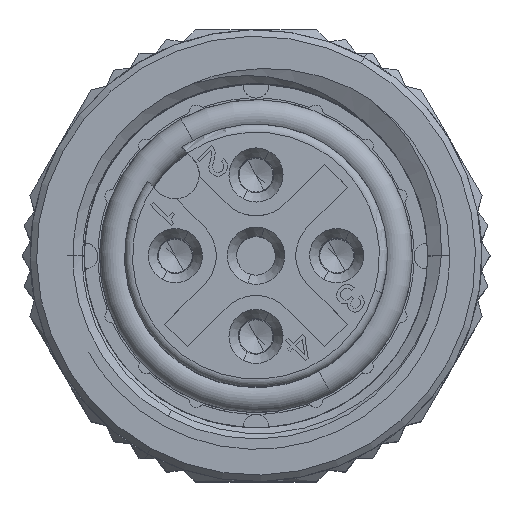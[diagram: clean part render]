
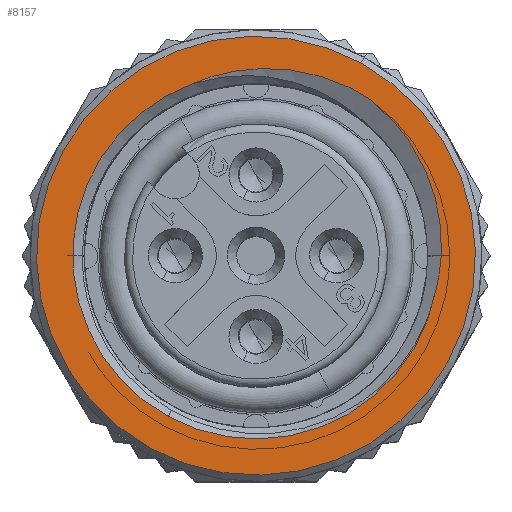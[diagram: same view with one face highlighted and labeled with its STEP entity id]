
A CAD part, top view. The second image highlights one B-rep face of the part: STEP entity #8157.
In plain terms, the highlighted planar face has unit normal (0, 0, 1).
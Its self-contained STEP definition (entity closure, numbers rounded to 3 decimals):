
#734 = CARTESIAN_POINT ( 'NONE',  ( 1.229, 5.733, 41.1 ) ) ;
#825 = CARTESIAN_POINT ( 'NONE',  ( 4.265, 4.185, 41.1 ) ) ;
#873 = DIRECTION ( 'NONE',  ( 1., 0., 0. ) ) ;
#990 = CARTESIAN_POINT ( 'NONE',  ( 4.755, 3.535, 41.1 ) ) ;
#1367 = CARTESIAN_POINT ( 'NONE',  ( 0., 0., 41.1 ) ) ;
#1842 = ORIENTED_EDGE ( 'NONE', *, *, #15718, .F. ) ;
#3182 = CARTESIAN_POINT ( 'NONE',  ( 3.933, 4.534, 41.1 ) ) ;
#3256 = CARTESIAN_POINT ( 'NONE',  ( 2.95, 5.205, 41.1 ) ) ;
#3341 = CARTESIAN_POINT ( 'NONE',  ( 4.783, 3.492, 41.1 ) ) ;
#3395 = DIRECTION ( 'NONE',  ( 0., 0., -1. ) ) ;
#4111 = ORIENTED_EDGE ( 'NONE', *, *, #29160, .F. ) ;
#4158 = CIRCLE ( 'NONE', #8966, 6.8 ) ;
#4229 = AXIS2_PLACEMENT_3D ( 'NONE', #10672, #28437, #31123 ) ;
#4765 = VERTEX_POINT ( 'NONE', #26833 ) ;
#5332 = CARTESIAN_POINT ( 'NONE',  ( 0., 0., 41.1 ) ) ;
#5579 = CARTESIAN_POINT ( 'NONE',  ( 5.74, -0.004, 41.1 ) ) ;
#5701 = CARTESIAN_POINT ( 'NONE',  ( 4.883, 3.337, 41.1 ) ) ;
#5778 = CARTESIAN_POINT ( 'NONE',  ( 3.527, 4.854, 41.1 ) ) ;
#6457 = B_SPLINE_CURVE_WITH_KNOTS ( 'NONE', 3,
 ( #31185, #18927, #10896, #13416, #28658, #21105, #28502, #5701, #15941, #8223, #3341, #16110, #990, #16273, #18274, #825, #3182, #31351 ),
 .UNSPECIFIED., .F., .F.,
 ( 4, 2, 2, 2, 1, 2, 2, 1, 2, 4 ),
 ( 0., 0.25, 0.5, 0.625, 0.656, 0.664, 0.672, 0.687, 0.75, 1. ),
 .UNSPECIFIED. ) ;
#7102 = DIRECTION ( 'NONE',  ( 0., 0., -1. ) ) ;
#7262 = B_SPLINE_CURVE_WITH_KNOTS ( 'NONE', 3,
 ( #5778, #31261, #3256, #13321, #23530, #21520, #13489, #734, #21185, #31425, #16189, #11136, #18672, #21355, #31748, #8627, #18837, #8789, #29067 ),
 .UNSPECIFIED., .F., .F.,
 ( 4, 2, 2, 2, 2, 1, 2, 2, 2, 4 ),
 ( 0., 0.25, 0.375, 0.437, 0.469, 0.484, 0.492, 0.5, 0.75, 1. ),
 .UNSPECIFIED. ) ;
#7330 = DIRECTION ( 'NONE',  ( 1., 0., 0. ) ) ;
#8157 = ADVANCED_FACE ( 'NONE', ( #17174, #14676 ), #17825, .F. ) ;
#8223 = CARTESIAN_POINT ( 'NONE',  ( 4.8, 3.466, 41.1 ) ) ;
#8627 = CARTESIAN_POINT ( 'NONE',  ( -0.347, 5.781, 41.1 ) ) ;
#8789 = CARTESIAN_POINT ( 'NONE',  ( -1.658, 5.46, 41.1 ) ) ;
#8920 = DIRECTION ( 'NONE',  ( 0., 0., -1. ) ) ;
#8966 = AXIS2_PLACEMENT_3D ( 'NONE', #1367, #8920, #19134 ) ;
#9347 = AXIS2_PLACEMENT_3D ( 'NONE', #26353, #3395, #873 ) ;
#9494 = CARTESIAN_POINT ( 'NONE',  ( -2.722, -4.983, 41.1 ) ) ;
#9632 = CARTESIAN_POINT ( 'NONE',  ( -1.961, 5.329, 41.1 ) ) ;
#9722 = AXIS2_PLACEMENT_3D ( 'NONE', #5332, #10515, #7330 ) ;
#10515 = DIRECTION ( 'NONE',  ( 0., 0., -1. ) ) ;
#10672 = CARTESIAN_POINT ( 'NONE',  ( 0., 0., 41.1 ) ) ;
#10812 = EDGE_CURVE ( 'NONE', #22697, #24032, #14017, .T. ) ;
#10896 = CARTESIAN_POINT ( 'NONE',  ( 5.74, 0.87, 41.1 ) ) ;
#11136 = CARTESIAN_POINT ( 'NONE',  ( 0.908, 5.773, 41.1 ) ) ;
#11309 = EDGE_CURVE ( 'NONE', #4765, #24032, #7262, .T. ) ;
#11796 = EDGE_LOOP ( 'NONE', ( #25904, #22773, #18919, #1842, #24290 ) ) ;
#12698 = CARTESIAN_POINT ( 'NONE',  ( 5.579, -1.056, 41.1 ) ) ;
#13012 = CARTESIAN_POINT ( 'NONE',  ( 5.665, -0.714, 41.1 ) ) ;
#13048 = B_SPLINE_CURVE_WITH_KNOTS ( 'NONE', 3,
 ( #18530, #13012, #13340, #23371 ),
 .UNSPECIFIED., .F., .F.,
 ( 4, 4 ),
 ( 0., 1. ),
 .UNSPECIFIED. ) ;
#13321 = CARTESIAN_POINT ( 'NONE',  ( 2.279, 5.473, 41.1 ) ) ;
#13340 = CARTESIAN_POINT ( 'NONE',  ( 5.719, -0.361, 41.1 ) ) ;
#13416 = CARTESIAN_POINT ( 'NONE',  ( 5.58, 1.762, 41.1 ) ) ;
#13489 = CARTESIAN_POINT ( 'NONE',  ( 1.46, 5.694, 41.1 ) ) ;
#14017 = CIRCLE ( 'NONE', #9722, 5.679 ) ;
#14676 = FACE_BOUND ( 'NONE', #11796, .T. ) ;
#15718 = EDGE_CURVE ( 'NONE', #26902, #4765, #6457, .T. ) ;
#15941 = CARTESIAN_POINT ( 'NONE',  ( 4.842, 3.402, 41.1 ) ) ;
#16005 = CIRCLE ( 'NONE', #4229, 5.679 ) ;
#16016 = VERTEX_POINT ( 'NONE', #12698 ) ;
#16110 = CARTESIAN_POINT ( 'NONE',  ( 4.776, 3.503, 41.1 ) ) ;
#16189 = CARTESIAN_POINT ( 'NONE',  ( 0.97, 5.767, 41.1 ) ) ;
#16273 = CARTESIAN_POINT ( 'NONE',  ( 4.681, 3.643, 41.1 ) ) ;
#17174 = FACE_OUTER_BOUND ( 'NONE', #25622, .T. ) ;
#17825 = PLANE ( 'NONE',  #19225 ) ;
#18274 = CARTESIAN_POINT ( 'NONE',  ( 4.602, 3.751, 41.1 ) ) ;
#18530 = CARTESIAN_POINT ( 'NONE',  ( 5.579, -1.056, 41.1 ) ) ;
#18672 = CARTESIAN_POINT ( 'NONE',  ( 0.867, 5.777, 41.1 ) ) ;
#18706 = ORIENTED_EDGE ( 'NONE', *, *, #23294, .F. ) ;
#18837 = CARTESIAN_POINT ( 'NONE',  ( -1.277, 5.594, 41.1 ) ) ;
#18919 = ORIENTED_EDGE ( 'NONE', *, *, #11309, .F. ) ;
#18927 = CARTESIAN_POINT ( 'NONE',  ( 5.764, 0.426, 41.1 ) ) ;
#19134 = DIRECTION ( 'NONE',  ( 1., 0., 0. ) ) ;
#19225 = AXIS2_PLACEMENT_3D ( 'NONE', #20162, #7102, #24856 ) ;
#20162 = CARTESIAN_POINT ( 'NONE',  ( 0., -6.8, 41.1 ) ) ;
#21105 = CARTESIAN_POINT ( 'NONE',  ( 5.153, 2.862, 41.1 ) ) ;
#21185 = CARTESIAN_POINT ( 'NONE',  ( 1.151, 5.744, 41.1 ) ) ;
#21355 = CARTESIAN_POINT ( 'NONE',  ( 0.844, 5.779, 41.1 ) ) ;
#21520 = CARTESIAN_POINT ( 'NONE',  ( 1.607, 5.663, 41.1 ) ) ;
#22697 = VERTEX_POINT ( 'NONE', #9494 ) ;
#22773 = ORIENTED_EDGE ( 'NONE', *, *, #10812, .T. ) ;
#23294 = EDGE_CURVE ( 'NONE', #27447, #27102, #4158, .T. ) ;
#23371 = CARTESIAN_POINT ( 'NONE',  ( 5.74, -0.004, 41.1 ) ) ;
#23530 = CARTESIAN_POINT ( 'NONE',  ( 2.027, 5.558, 41.1 ) ) ;
#23923 = EDGE_CURVE ( 'NONE', #16016, #22697, #16005, .T. ) ;
#24032 = VERTEX_POINT ( 'NONE', #9632 ) ;
#24290 = ORIENTED_EDGE ( 'NONE', *, *, #29842, .F. ) ;
#24599 = CARTESIAN_POINT ( 'NONE',  ( 3.26, 5.968, 41.1 ) ) ;
#24856 = DIRECTION ( 'NONE',  ( 0., -1., 0. ) ) ;
#24970 = CARTESIAN_POINT ( 'NONE',  ( -3.26, -5.968, 41.1 ) ) ;
#25622 = EDGE_LOOP ( 'NONE', ( #4111, #18706 ) ) ;
#25904 = ORIENTED_EDGE ( 'NONE', *, *, #23923, .T. ) ;
#26353 = CARTESIAN_POINT ( 'NONE',  ( 0., 0., 41.1 ) ) ;
#26833 = CARTESIAN_POINT ( 'NONE',  ( 3.527, 4.854, 41.1 ) ) ;
#26902 = VERTEX_POINT ( 'NONE', #5579 ) ;
#27102 = VERTEX_POINT ( 'NONE', #24970 ) ;
#27447 = VERTEX_POINT ( 'NONE', #24599 ) ;
#28437 = DIRECTION ( 'NONE',  ( 0., 0., -1. ) ) ;
#28502 = CARTESIAN_POINT ( 'NONE',  ( 5.041, 3.076, 41.1 ) ) ;
#28658 = CARTESIAN_POINT ( 'NONE',  ( 5.444, 2.21, 41.1 ) ) ;
#29067 = CARTESIAN_POINT ( 'NONE',  ( -1.961, 5.329, 41.1 ) ) ;
#29160 = EDGE_CURVE ( 'NONE', #27102, #27447, #30227, .T. ) ;
#29842 = EDGE_CURVE ( 'NONE', #16016, #26902, #13048, .T. ) ;
#30227 = CIRCLE ( 'NONE', #9347, 6.8 ) ;
#31123 = DIRECTION ( 'NONE',  ( 1., 0., 0. ) ) ;
#31185 = CARTESIAN_POINT ( 'NONE',  ( 5.74, -0.004, 41.1 ) ) ;
#31261 = CARTESIAN_POINT ( 'NONE',  ( 3.286, 5.01, 41.1 ) ) ;
#31351 = CARTESIAN_POINT ( 'NONE',  ( 3.527, 4.854, 41.1 ) ) ;
#31425 = CARTESIAN_POINT ( 'NONE',  ( 1.03, 5.76, 41.1 ) ) ;
#31748 = CARTESIAN_POINT ( 'NONE',  ( 0.203, 5.833, 41.1 ) ) ;
